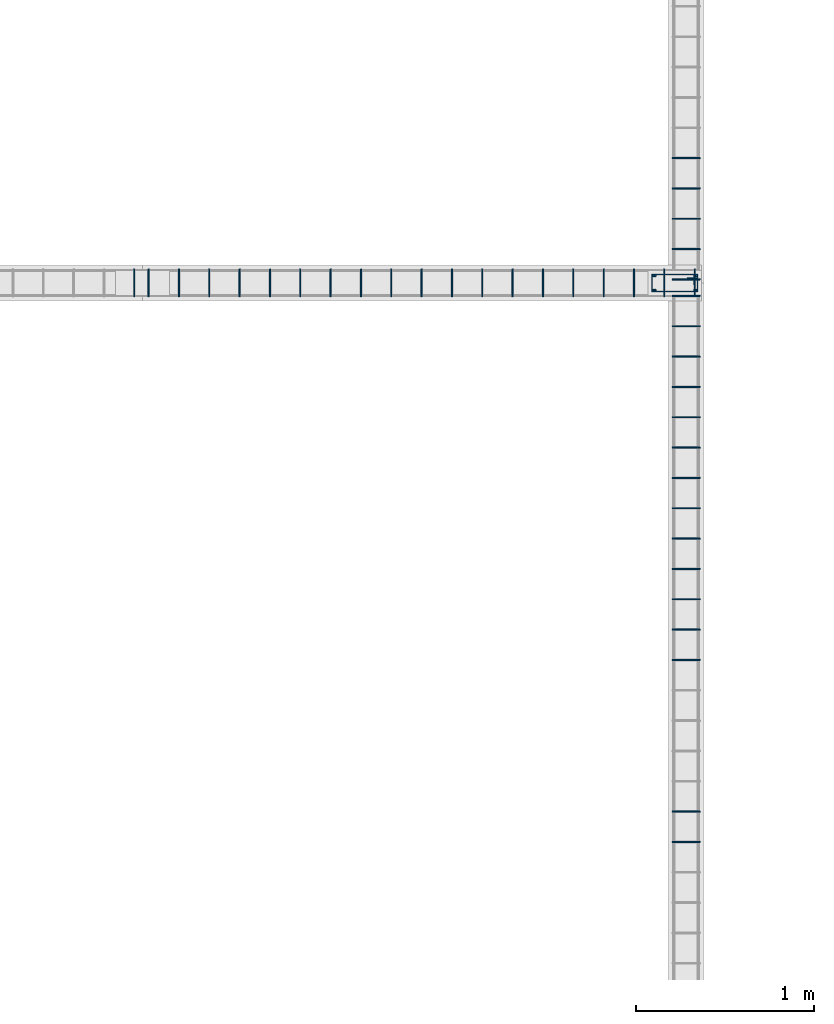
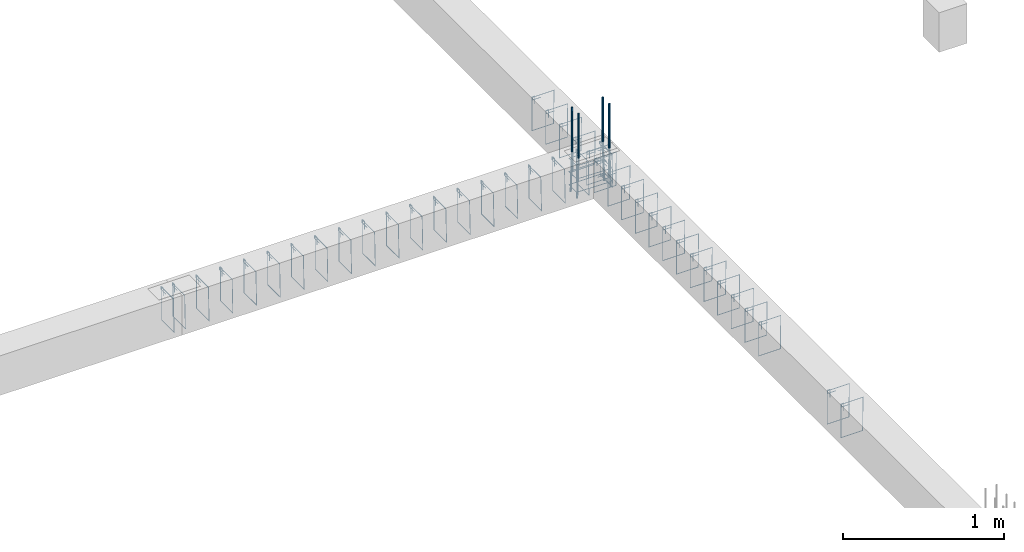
# One storey, part 60 of 150: 47 reinforcing bars.
"""IFC4 building model written with IfcOpenShell, lengths in centimetres."""

from ifc_helpers import new_model, entity, si_unit, derived_unit, frame, origin_with_axes, place, context, project, spatial, source, transform, mapped, element, save


model = new_model("IFC4")

# Units and contexts
model_context = context("Model", 3, precision=1e-05, world=origin_with_axes(), identifier="Body")
ifc_project = project(units=[si_unit("LENGTHUNIT", "METRE", prefix="CENTI"), si_unit("VOLUMEUNIT", "CUBIC_METRE"), si_unit("AREAUNIT", "SQUARE_METRE"), si_unit("POWERUNIT", "WATT"), si_unit("LUMINOUSFLUXUNIT", "LUMEN"), si_unit("ELECTRICCURRENTUNIT", "AMPERE"), si_unit("PRESSUREUNIT", "PASCAL", prefix="KILO"), si_unit("MASSUNIT", "GRAM", prefix="KILO"), si_unit("PLANEANGLEUNIT", "RADIAN"), derived_unit("VOLUMETRICFLOWRATEUNIT", [(si_unit("LENGTHUNIT", "METRE"), 3), (si_unit("TIMEUNIT", "SECOND"), -1)])], contexts=[model_context])

# Site, building, storey
site_placement = place(None, frame((-4000.0, 0.0, 0.0), z_axis=(0.0, 0.0, 1.0), x_axis=(1.0, 0.0, 0.0)))
site = spatial("IfcSite", under=ifc_project, at=site_placement, Name="PADRÃO")
building_placement = place(site_placement, frame((0.0, 0.0, -14.0)))
building = spatial("IfcBuilding", under=site, at=building_placement, Name="CRECHE PRÉ-ESCOLA TIPO 2")
placement = place(building_placement, origin_with_axes())
storey_placement = place(placement, frame((0.0, 0.0, 30.0), z_axis=(0.0, 0.0, 1.0), x_axis=(1.0, 0.0, 0.0)))
storey = spatial("IfcBuildingStorey", under=building, at=storey_placement, Name="VIGA BALDRAME", CompositionType="ELEMENT", Elevation=16.0)

# Reinforcing bars
shared_shape_1 = source(origin_with_axes(), model_context, "Body", "AdvancedSweptSolid", [
    entity("IfcSweptDiskSolid", entity("IfcCompositeCurve", [entity("IfcCompositeCurveSegment", "CONTINUOUS", True, entity("IfcPolyline", [entity("IfcCartesianPoint", [4.25, 21.75, 0.0]), entity("IfcCartesianPoint", [4.25, 27.75, 0.0])])), entity("IfcCompositeCurveSegment", "CONTINUOUS", True, entity("IfcPolyline", [entity("IfcCartesianPoint", [4.25, 27.75, 0.0]), entity("IfcCartesianPoint", [2.25, 27.75, 0.0])])), entity("IfcCompositeCurveSegment", "CONTINUOUS", True, entity("IfcPolyline", [entity("IfcCartesianPoint", [2.25, 27.75, 0.0]), entity("IfcCartesianPoint", [2.25, 2.25, 0.0])])), entity("IfcCompositeCurveSegment", "CONTINUOUS", True, entity("IfcPolyline", [entity("IfcCartesianPoint", [2.25, 2.25, 0.0]), entity("IfcCartesianPoint", [11.75, 2.25, 0.0])])), entity("IfcCompositeCurveSegment", "CONTINUOUS", True, entity("IfcPolyline", [entity("IfcCartesianPoint", [11.75, 2.25, 0.0]), entity("IfcCartesianPoint", [11.75, 27.75, -0.5])])), entity("IfcCompositeCurveSegment", "CONTINUOUS", True, entity("IfcPolyline", [entity("IfcCartesianPoint", [11.75, 27.75, -0.5]), entity("IfcCartesianPoint", [2.25, 27.75, -0.5])])), entity("IfcCompositeCurveSegment", "CONTINUOUS", True, entity("IfcPolyline", [entity("IfcCartesianPoint", [2.25, 27.75, -0.5]), entity("IfcCartesianPoint", [2.25, 25.75, -0.5])])), entity("IfcCompositeCurveSegment", "CONTINUOUS", True, entity("IfcPolyline", [entity("IfcCartesianPoint", [2.25, 25.75, -0.5]), entity("IfcCartesianPoint", [8.25, 25.75, -0.5])]))], False), 0.25),
])
for number, where, z_axis, x_axis, name in (
    (1, (1094.72, 1929.5, -25.0), (0.0, 0.0, 1.0), (0.0, -1.0, 0.0), "P87 - Estribo"),
    (2, (1094.72, 1929.5, -5.0), (0.0, 0.0, 1.0), (0.0, -1.0, 0.0), "P87 - Estribo"),
    (3, (1094.72, 1929.5, -15.0), (0.0, 0.0, 1.0), (0.0, -1.0, 0.0), "P87 - Estribo"),
):
    element("IfcReinforcingBar", number, at=place(storey_placement, frame(where, z_axis=z_axis, x_axis=x_axis)), inside=storey, Name=name, BarLength=0.0, CrossSectionArea=1.9634954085e-05, NominalDiameter=0.5, PredefinedType="MAIN", context=model_context, shape_type="MappedRepresentation", body=[
        mapped(shared_shape_1, transform((0.0, 0.0, 0.0), scale=1.0)),
    ])
shared_shape_2 = source(origin_with_axes(), model_context, "Body", "AdvancedSweptSolid", [
    entity("IfcSweptDiskSolid", entity("IfcCompositeCurve", [entity("IfcCompositeCurveSegment", "CONTINUOUS", True, entity("IfcPolyline", [entity("IfcCartesianPoint", [2.0, -6.0, 0.0]), entity("IfcCartesianPoint", [2.0, 0.0, 0.0])])), entity("IfcCompositeCurveSegment", "CONTINUOUS", True, entity("IfcPolyline", [entity("IfcCartesianPoint", [2.0, 0.0, 0.0]), entity("IfcCartesianPoint", [0.0, 0.0, 0.0])])), entity("IfcCompositeCurveSegment", "CONTINUOUS", True, entity("IfcPolyline", [entity("IfcCartesianPoint", [0.0, 0.0, 0.0]), entity("IfcCartesianPoint", [0.0, -25.5, 0.0])])), entity("IfcCompositeCurveSegment", "CONTINUOUS", True, entity("IfcPolyline", [entity("IfcCartesianPoint", [0.0, -25.5, 0.0]), entity("IfcCartesianPoint", [15.5, -25.5, 0.0])])), entity("IfcCompositeCurveSegment", "CONTINUOUS", True, entity("IfcPolyline", [entity("IfcCartesianPoint", [15.5, -25.5, 0.0]), entity("IfcCartesianPoint", [15.5, 0.0, 0.5])])), entity("IfcCompositeCurveSegment", "CONTINUOUS", True, entity("IfcPolyline", [entity("IfcCartesianPoint", [15.5, 0.0, 0.5]), entity("IfcCartesianPoint", [0.0, 0.0, 0.5])])), entity("IfcCompositeCurveSegment", "CONTINUOUS", True, entity("IfcPolyline", [entity("IfcCartesianPoint", [0.0, 0.0, 0.5]), entity("IfcCartesianPoint", [0.0, -2.0, 0.5])])), entity("IfcCompositeCurveSegment", "CONTINUOUS", True, entity("IfcPolyline", [entity("IfcCartesianPoint", [0.0, -2.0, 0.5]), entity("IfcCartesianPoint", [6.0, -2.0, 0.5])]))], False), 0.25),
])
for number, where, z_axis, x_axis, name in (
    (4, (1108.25, 1898.5, -2.25), (0.0, -1.0, 0.0), (1.0, 0.0, 0.0), "V183 - Estribo"),
    (5, (1108.25, 1915.5, -2.25), (0.0, -1.0, 0.0), (1.0, 0.0, 0.0), "V183 - Estribo"),
    (6, (1108.25, 1864.5, -2.25), (0.0, -1.0, 0.0), (1.0, 0.0, 0.0), "V183 - Estribo"),
    (7, (1108.25, 1881.5, -2.25), (0.0, -1.0, 0.0), (1.0, 0.0, 0.0), "V183 - Estribo"),
    (8, (1108.25, 1847.5, -2.25), (0.0, -1.0, 0.0), (1.0, 0.0, 0.0), "V183 - Estribo"),
    (9, (1108.25, 1830.5, -2.25), (0.0, -1.0, 0.0), (1.0, 0.0, 0.0), "V183 - Estribo"),
    (10, (1108.25, 1813.5, -2.25), (0.0, -1.0, 0.0), (1.0, 0.0, 0.0), "V183 - Estribo"),
    (11, (1108.25, 1796.5, -2.25), (0.0, -1.0, 0.0), (1.0, 0.0, 0.0), "V183 - Estribo"),
    (12, (1108.25, 1779.5, -2.25), (0.0, -1.0, 0.0), (1.0, 0.0, 0.0), "V183 - Estribo"),
    (13, (1108.25, 1762.5, -2.25), (0.0, -1.0, 0.0), (1.0, 0.0, 0.0), "V183 - Estribo"),
    (14, (1108.25, 1745.5, -2.25), (0.0, -1.0, 0.0), (1.0, 0.0, 0.0), "V183 - Estribo"),
    (15, (1108.25, 1728.5, -2.25), (0.0, -1.0, 0.0), (1.0, 0.0, 0.0), "V183 - Estribo"),
    (16, (1108.25, 1711.5, -2.25), (0.0, -1.0, 0.0), (1.0, 0.0, 0.0), "V183 - Estribo"),
    (17, (1108.25, 1626.5, -2.25), (0.0, -1.0, 0.0), (1.0, 0.0, 0.0), "V183 - Estribo"),
    (18, (1108.25, 1609.5, -2.25), (0.0, -1.0, 0.0), (1.0, 0.0, 0.0), "V183 - Estribo"),
):
    element("IfcReinforcingBar", number, at=place(storey_placement, frame(where, z_axis=z_axis, x_axis=x_axis)), inside=storey, Name=name, BarLength=0.0, CrossSectionArea=1.9634954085e-05, NominalDiameter=0.5, PredefinedType="MAIN", context=model_context, shape_type="MappedRepresentation", body=[
        mapped(shared_shape_2, transform((0.0, 0.0, 0.0), scale=1.0)),
    ])
shared_shape_3 = source(origin_with_axes(), model_context, "Body", "AdvancedSweptSolid", [
    entity("IfcSweptDiskSolid", entity("IfcCompositeCurve", [entity("IfcCompositeCurveSegment", "CONTINUOUS", True, entity("IfcPolyline", [entity("IfcCartesianPoint", [2.0, -6.0, 0.0]), entity("IfcCartesianPoint", [2.0, 0.0, 0.0])])), entity("IfcCompositeCurveSegment", "CONTINUOUS", True, entity("IfcPolyline", [entity("IfcCartesianPoint", [2.0, 0.0, 0.0]), entity("IfcCartesianPoint", [0.0, 0.0, 0.0])])), entity("IfcCompositeCurveSegment", "CONTINUOUS", True, entity("IfcPolyline", [entity("IfcCartesianPoint", [0.0, 0.0, 0.0]), entity("IfcCartesianPoint", [0.0, -25.5, 0.0])])), entity("IfcCompositeCurveSegment", "CONTINUOUS", True, entity("IfcPolyline", [entity("IfcCartesianPoint", [0.0, -25.5, 0.0]), entity("IfcCartesianPoint", [15.5, -25.5, 0.0])])), entity("IfcCompositeCurveSegment", "CONTINUOUS", True, entity("IfcPolyline", [entity("IfcCartesianPoint", [15.5, -25.5, 0.0]), entity("IfcCartesianPoint", [15.5, 0.0, 0.5])])), entity("IfcCompositeCurveSegment", "CONTINUOUS", True, entity("IfcPolyline", [entity("IfcCartesianPoint", [15.5, 0.0, 0.5]), entity("IfcCartesianPoint", [0.0, 0.0, 0.5])])), entity("IfcCompositeCurveSegment", "CONTINUOUS", True, entity("IfcPolyline", [entity("IfcCartesianPoint", [0.0, 0.0, 0.5]), entity("IfcCartesianPoint", [0.0, -2.0, 0.5])])), entity("IfcCompositeCurveSegment", "CONTINUOUS", True, entity("IfcPolyline", [entity("IfcCartesianPoint", [0.0, -2.0, 0.5]), entity("IfcCartesianPoint", [6.0, -2.0, 0.5])]))], False), 0.25),
])
for number, where, z_axis, x_axis, name in (
    (19, (1108.25, 1924.75, -2.25), (0.0, -1.0, 0.0), (1.0, 0.0, 0.0), "V183 - Estribo"),
    (20, (1108.25, 1941.75, -2.25), (0.0, -1.0, 0.0), (1.0, 0.0, 0.0), "V183 - Estribo"),
    (21, (1108.25, 1958.75, -2.25), (0.0, -1.0, 0.0), (1.0, 0.0, 0.0), "V183 - Estribo"),
    (22, (1108.25, 1975.75, -2.25), (0.0, -1.0, 0.0), (1.0, 0.0, 0.0), "V183 - Estribo"),
    (23, (1108.25, 1992.75, -2.25), (0.0, -1.0, 0.0), (1.0, 0.0, 0.0), "V183 - Estribo"),
):
    element("IfcReinforcingBar", number, at=place(storey_placement, frame(where, z_axis=z_axis, x_axis=x_axis)), inside=storey, Name=name, BarLength=0.0, CrossSectionArea=1.9634954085e-05, NominalDiameter=0.5, PredefinedType="MAIN", context=model_context, shape_type="MappedRepresentation", body=[
        mapped(shared_shape_3, transform((0.0, 0.0, 0.0), scale=1.0)),
    ])
shared_shape_4 = source(origin_with_axes(), model_context, "Body", "AdvancedSweptSolid", [
    entity("IfcSweptDiskSolid", entity("IfcCompositeCurve", [entity("IfcCompositeCurveSegment", "CONTINUOUS", True, entity("IfcPolyline", [entity("IfcCartesianPoint", [2.0, -6.0, 0.0]), entity("IfcCartesianPoint", [2.0, 0.0, 0.0])])), entity("IfcCompositeCurveSegment", "CONTINUOUS", True, entity("IfcPolyline", [entity("IfcCartesianPoint", [2.0, 0.0, 0.0]), entity("IfcCartesianPoint", [0.0, 0.0, 0.0])])), entity("IfcCompositeCurveSegment", "CONTINUOUS", True, entity("IfcPolyline", [entity("IfcCartesianPoint", [0.0, 0.0, 0.0]), entity("IfcCartesianPoint", [0.0, -25.5, 0.0])])), entity("IfcCompositeCurveSegment", "CONTINUOUS", True, entity("IfcPolyline", [entity("IfcCartesianPoint", [0.0, -25.5, 0.0]), entity("IfcCartesianPoint", [15.5, -25.5, 0.0])])), entity("IfcCompositeCurveSegment", "CONTINUOUS", True, entity("IfcPolyline", [entity("IfcCartesianPoint", [15.5, -25.5, 0.0]), entity("IfcCartesianPoint", [15.5, 0.0, 0.5])])), entity("IfcCompositeCurveSegment", "CONTINUOUS", True, entity("IfcPolyline", [entity("IfcCartesianPoint", [15.5, 0.0, 0.5]), entity("IfcCartesianPoint", [0.0, 0.0, 0.5])])), entity("IfcCompositeCurveSegment", "CONTINUOUS", True, entity("IfcPolyline", [entity("IfcCartesianPoint", [0.0, 0.0, 0.5]), entity("IfcCartesianPoint", [0.0, -2.0, 0.5])])), entity("IfcCompositeCurveSegment", "CONTINUOUS", True, entity("IfcPolyline", [entity("IfcCartesianPoint", [0.0, -2.0, 0.5]), entity("IfcCartesianPoint", [6.0, -2.0, 0.5])]))], False), 0.25),
])
reinforcing_bar_placement = place(storey_placement, frame((807.04, 1930.25, -2.25), z_axis=(-1.0, 0.0, 0.0), x_axis=(0.0, -1.0, 0.0)))
element("IfcReinforcingBar", 24, at=reinforcing_bar_placement, inside=storey, Name="V125 - Estribo", BarLength=0.0, CrossSectionArea=1.9634954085e-05, NominalDiameter=0.5, PredefinedType="MAIN", context=model_context, shape_type="MappedRepresentation", body=[
    mapped(shared_shape_4, transform((0.0, 0.0, 0.0), scale=1.0)),
])
shared_shape_5 = source(origin_with_axes(), model_context, "Body", "AdvancedSweptSolid", [
    entity("IfcSweptDiskSolid", entity("IfcCompositeCurve", [entity("IfcCompositeCurveSegment", "CONTINUOUS", True, entity("IfcPolyline", [entity("IfcCartesianPoint", [2.0, -6.0, 0.0]), entity("IfcCartesianPoint", [2.0, 0.0, 0.0])])), entity("IfcCompositeCurveSegment", "CONTINUOUS", True, entity("IfcPolyline", [entity("IfcCartesianPoint", [2.0, 0.0, 0.0]), entity("IfcCartesianPoint", [0.0, 0.0, 0.0])])), entity("IfcCompositeCurveSegment", "CONTINUOUS", True, entity("IfcPolyline", [entity("IfcCartesianPoint", [0.0, 0.0, 0.0]), entity("IfcCartesianPoint", [0.0, -25.5, 0.0])])), entity("IfcCompositeCurveSegment", "CONTINUOUS", True, entity("IfcPolyline", [entity("IfcCartesianPoint", [0.0, -25.5, 0.0]), entity("IfcCartesianPoint", [15.5, -25.5, 0.0])])), entity("IfcCompositeCurveSegment", "CONTINUOUS", True, entity("IfcPolyline", [entity("IfcCartesianPoint", [15.5, -25.5, 0.0]), entity("IfcCartesianPoint", [15.5, 0.0, 0.5])])), entity("IfcCompositeCurveSegment", "CONTINUOUS", True, entity("IfcPolyline", [entity("IfcCartesianPoint", [15.5, 0.0, 0.5]), entity("IfcCartesianPoint", [0.0, 0.0, 0.5])])), entity("IfcCompositeCurveSegment", "CONTINUOUS", True, entity("IfcPolyline", [entity("IfcCartesianPoint", [0.0, 0.0, 0.5]), entity("IfcCartesianPoint", [0.0, -2.0, 0.5])])), entity("IfcCompositeCurveSegment", "CONTINUOUS", True, entity("IfcPolyline", [entity("IfcCartesianPoint", [0.0, -2.0, 0.5]), entity("IfcCartesianPoint", [6.0, -2.0, 0.5])]))], False), 0.25),
])
for number, where, z_axis, x_axis, name in (
    (25, (985.055, 1930.25, -2.25), (-1.0, 0.0, 0.0), (0.0, -1.0, 0.0), "V125 - Estribo"),
    (26, (968.055, 1930.25, -2.25), (-1.0, 0.0, 0.0), (0.0, -1.0, 0.0), "V125 - Estribo"),
    (27, (951.055, 1930.25, -2.25), (-1.0, 0.0, 0.0), (0.0, -1.0, 0.0), "V125 - Estribo"),
    (28, (934.055, 1930.25, -2.25), (-1.0, 0.0, 0.0), (0.0, -1.0, 0.0), "V125 - Estribo"),
    (29, (917.055, 1930.25, -2.25), (-1.0, 0.0, 0.0), (0.0, -1.0, 0.0), "V125 - Estribo"),
    (30, (900.055, 1930.25, -2.25), (-1.0, 0.0, 0.0), (0.0, -1.0, 0.0), "V125 - Estribo"),
    (31, (883.055, 1930.25, -2.25), (-1.0, 0.0, 0.0), (0.0, -1.0, 0.0), "V125 - Estribo"),
    (32, (866.055, 1930.25, -2.25), (-1.0, 0.0, 0.0), (0.0, -1.0, 0.0), "V125 - Estribo"),
    (33, (849.055, 1930.25, -2.25), (-1.0, 0.0, 0.0), (0.0, -1.0, 0.0), "V125 - Estribo"),
    (34, (832.055, 1930.25, -2.25), (-1.0, 0.0, 0.0), (0.0, -1.0, 0.0), "V125 - Estribo"),
    (35, (815.055, 1930.25, -2.25), (-1.0, 0.0, 0.0), (0.0, -1.0, 0.0), "V125 - Estribo"),
    (36, (1053.055, 1930.25, -2.25), (-1.0, 0.0, 0.0), (0.0, -1.0, 0.0), "V125 - Estribo"),
    (37, (1070.055, 1930.25, -2.25), (-1.0, 0.0, 0.0), (0.0, -1.0, 0.0), "V125 - Estribo"),
    (38, (1087.055, 1930.25, -2.25), (-1.0, 0.0, 0.0), (0.0, -1.0, 0.0), "V125 - Estribo"),
    (39, (1104.055, 1930.25, -2.25), (-1.0, 0.0, 0.0), (0.0, -1.0, 0.0), "V125 - Estribo"),
    (40, (1121.055, 1930.25, -2.25), (-1.0, 0.0, 0.0), (0.0, -1.0, 0.0), "V125 - Estribo"),
    (41, (1036.055, 1930.25, -2.25), (-1.0, 0.0, 0.0), (0.0, -1.0, 0.0), "V125 - Estribo"),
    (42, (1019.055, 1930.25, -2.25), (-1.0, 0.0, 0.0), (0.0, -1.0, 0.0), "V125 - Estribo"),
    (43, (1002.055, 1930.25, -2.25), (-1.0, 0.0, 0.0), (0.0, -1.0, 0.0), "V125 - Estribo"),
):
    element("IfcReinforcingBar", number, at=place(storey_placement, frame(where, z_axis=z_axis, x_axis=x_axis)), inside=storey, Name=name, BarLength=0.0, CrossSectionArea=1.9634954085e-05, NominalDiameter=0.5, PredefinedType="MAIN", context=model_context, shape_type="MappedRepresentation", body=[
        mapped(shared_shape_5, transform((0.0, 0.0, 0.0), scale=1.0)),
    ])
for number, where, z_axis, x_axis, name in (
    (44, (1121.21986122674, 1926.5, 33.3573001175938), (0.0, 0.0, 1.0), (1.0, 0.0, 0.0), "P87 - Longitudinal"),
    (45, (1121.21986122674, 1918.5, 33.3573001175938), (0.0, 0.0, 1.0), (1.0, 0.0, 0.0), "P87 - Longitudinal"),
):
    element("IfcReinforcingBar", number, at=place(storey_placement, frame(where, z_axis=z_axis, x_axis=x_axis)), inside=storey, Name=name, BarLength=0.0, CrossSectionArea=7.853981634e-05, NominalDiameter=1.0, PredefinedType="MAIN", context=model_context, shape_type="AdvancedSweptSolid", body=[
        entity("IfcSweptDiskSolid", entity("IfcCompositeCurve", [entity("IfcCompositeCurveSegment", "CONTINUOUS", True, entity("IfcPolyline", [entity("IfcCartesianPoint", [0.50013877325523, 0.0, -63.3573001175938]), entity("IfcCartesianPoint", [-0.49986122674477, 0.0, -33.3573001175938])])), entity("IfcCompositeCurveSegment", "CONTINUOUS", True, entity("IfcPolyline", [entity("IfcCartesianPoint", [-0.49986122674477, 0.0, -33.3573001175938]), entity("IfcCartesianPoint", [-0.49986122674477, 0.0, 0.0])]))], False), 0.5),
    ])
for number, where, z_axis, x_axis, name in (
    (46, (1098.22013877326, 1918.5, 33.3573001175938), (0.0, 0.0, 1.0), (1.0, 0.0, 0.0), "P87 - Longitudinal"),
    (47, (1098.22013877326, 1926.5, 33.3573001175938), (0.0, 0.0, 1.0), (1.0, 0.0, 0.0), "P87 - Longitudinal"),
):
    element("IfcReinforcingBar", number, at=place(storey_placement, frame(where, z_axis=z_axis, x_axis=x_axis)), inside=storey, Name=name, BarLength=0.0, CrossSectionArea=7.853981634e-05, NominalDiameter=1.0, PredefinedType="MAIN", context=model_context, shape_type="AdvancedSweptSolid", body=[
        entity("IfcSweptDiskSolid", entity("IfcCompositeCurve", [entity("IfcCompositeCurveSegment", "CONTINUOUS", True, entity("IfcPolyline", [entity("IfcCartesianPoint", [-0.50013877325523, 0.0, -63.3573001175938]), entity("IfcCartesianPoint", [0.49986122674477, 0.0, -33.3573001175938])])), entity("IfcCompositeCurveSegment", "CONTINUOUS", True, entity("IfcPolyline", [entity("IfcCartesianPoint", [0.49986122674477, 0.0, -33.3573001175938]), entity("IfcCartesianPoint", [0.49986122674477, 0.0, 0.0])]))], False), 0.5),
    ])

save(model, "model.ifc")
